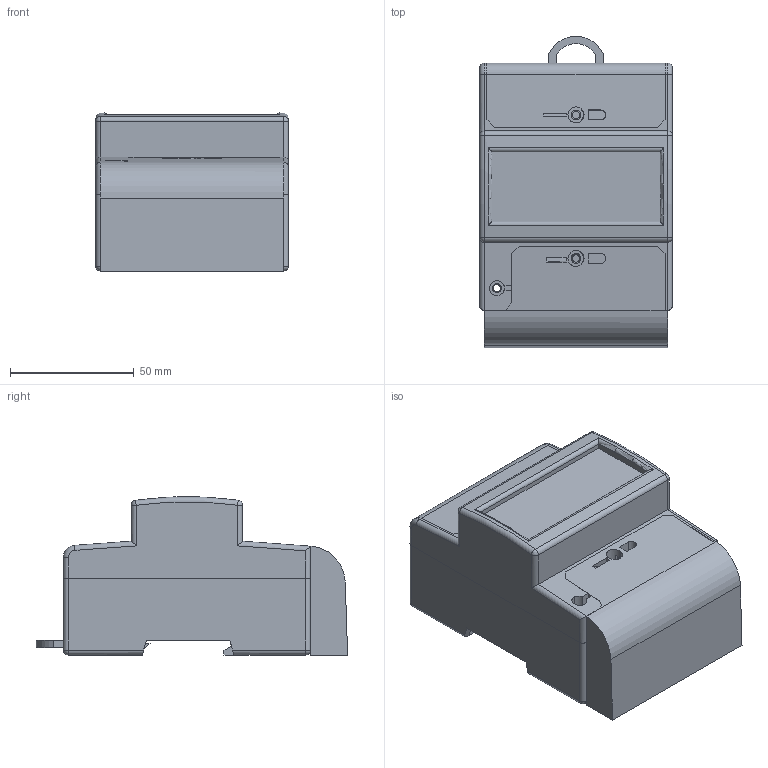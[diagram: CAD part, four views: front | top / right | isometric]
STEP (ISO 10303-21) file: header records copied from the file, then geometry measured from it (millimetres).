
FILE_DESCRIPTION (( 'STEP AP203' ), '1' );
FILE_NAME ('捗檠104鼁闉罻.STEP', '2018-09-04T07:17:51', ( '' ), ( '' ), 'SwSTEP 2.0', 'SolidWorks 2017', '' );
FILE_SCHEMA (( 'CONFIG_CONTROL_DESIGN' ));
Length unit declared in the file: millimetre
Products named in the file (9): 捗檠104鼁闉罻; ÑÊÀÒ104 îñíîâàíèå; Êîëîäêà; çàùåëêà; Ñòåêëûøêî; Âñòàâêà îñíîâàíèå; 咽酪104牮赅; ÑÊÀÒ104êðûøêà ìàëåíüêàÿ; 咽酪104牮赅 牮觇
Assembly tree (8 placements, depth 2):
  捗檠104鼁闉罻
    ÑÊÀÒ104 îñíîâàíèå
    咽酪104牮赅
    咽酪104牮赅 牮觇
    ÑÊÀÒ104êðûøêà ìàëåíüêàÿ
    Ñòåêëûøêî
    Âñòàâêà îñíîâàíèå
    Êîëîäêà
    çàùåëêà
Bounding box: 78 x 125.83 x 63.91 mm (x, y, z)
Volume: 141864.9 mm3; surface area: 116339.1 mm2
Topology: 8 solids, 8 shells, 1017 faces, 2788 edges, 1820 vertices
Faces by surface type: plane 687, cylinder 303, torus 10, sphere 9, bspline 8
Entity records: 33311 total; most frequent: CARTESIAN_POINT 6477, ORIENTED_EDGE 5562, DIRECTION 5164, EDGE_CURVE 2781, VECTOR 2022, LINE 2022, VERTEX_POINT 1818, AXIS2_PLACEMENT_3D 1571
